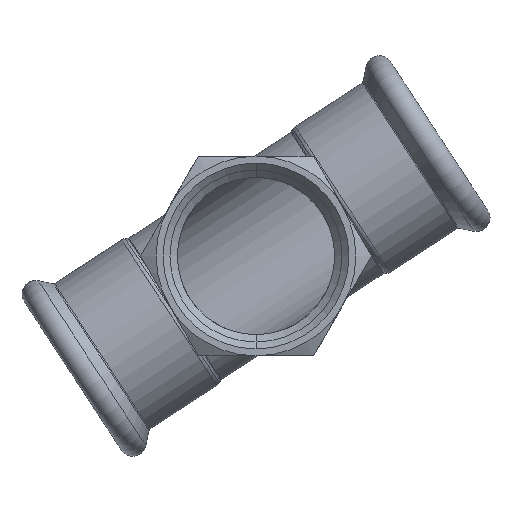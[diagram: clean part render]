
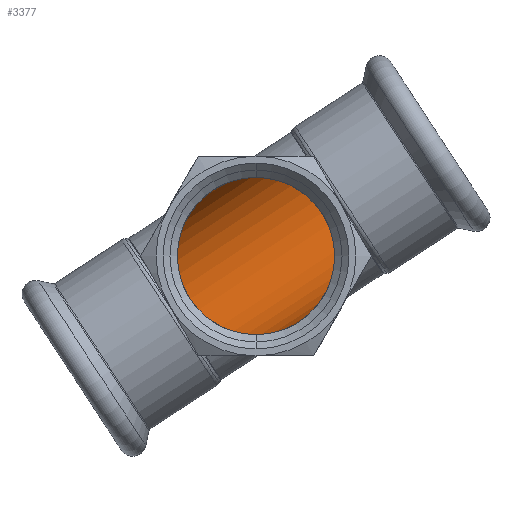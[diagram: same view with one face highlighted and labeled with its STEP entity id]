
A CAD part, front view. The second image highlights one B-rep face of the part: STEP entity #3377.
In plain terms, the highlighted cylindrical face has radius 20.5 mm (diameter 41 mm), a partial arc.
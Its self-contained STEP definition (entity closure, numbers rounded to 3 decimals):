
#170 = CARTESIAN_POINT ( 'NONE',  ( -25.154, 0., 20.5 ) ) ;
#344 = ORIENTED_EDGE ( 'NONE', *, *, #1322, .F. ) ;
#368 = ORIENTED_EDGE ( 'NONE', *, *, #807, .T. ) ;
#374 = EDGE_CURVE ( 'NONE', #3007, #3116, #1953, .T. ) ;
#608 = CARTESIAN_POINT ( 'NONE',  ( 27.146, 0., 20.5 ) ) ;
#643 = CARTESIAN_POINT ( 'NONE',  ( -25.154, 0., 0. ) ) ;
#653 = AXIS2_PLACEMENT_3D ( 'NONE', #643, #1210, #3063 ) ;
#730 = AXIS2_PLACEMENT_3D ( 'NONE', #3321, #3298, #2013 ) ;
#735 = LINE ( 'NONE', #2338, #779 ) ;
#779 = VECTOR ( 'NONE', #3138, 1000. ) ;
#807 = EDGE_CURVE ( 'NONE', #3116, #1616, #735, .T. ) ;
#838 = EDGE_CURVE ( 'NONE', #3001, #2444, #3466, .T. ) ;
#1149 = FACE_OUTER_BOUND ( 'NONE', #1391, .T. ) ;
#1177 = EDGE_CURVE ( 'NONE', #1543, #3001, #3420, .T. ) ;
#1210 = DIRECTION ( 'NONE',  ( -1., 0., 0. ) ) ;
#1322 = EDGE_CURVE ( 'NONE', #3007, #1543, #2911, .T. ) ;
#1391 = EDGE_LOOP ( 'NONE', ( #344, #1773, #368, #3253, #3259, #3446 ) ) ;
#1542 = CARTESIAN_POINT ( 'NONE',  ( 25.154, 0., 20.5 ) ) ;
#1543 = VERTEX_POINT ( 'NONE', #1542 ) ;
#1616 = VERTEX_POINT ( 'NONE', #2879 ) ;
#1685 = CIRCLE ( 'NONE', #653, 20.5 ) ;
#1773 = ORIENTED_EDGE ( 'NONE', *, *, #374, .T. ) ;
#1790 = VECTOR ( 'NONE', #2726, 1000. ) ;
#1904 = CARTESIAN_POINT ( 'NONE',  ( 25.154, 0., -20.5 ) ) ;
#1953 = LINE ( 'NONE', #2952, #1790 ) ;
#1991 = DIRECTION ( 'NONE',  ( 0., 0., 1. ) ) ;
#2013 = DIRECTION ( 'NONE',  ( 0., 0., 1. ) ) ;
#2047 = CARTESIAN_POINT ( 'NONE',  ( 27.146, 0., 20.5 ) ) ;
#2123 = VECTOR ( 'NONE', #2991, 1000. ) ;
#2292 = CARTESIAN_POINT ( 'NONE',  ( 0., 0., -20.5 ) ) ;
#2338 = CARTESIAN_POINT ( 'NONE',  ( 27.146, 0., -20.5 ) ) ;
#2444 = VERTEX_POINT ( 'NONE', #170 ) ;
#2673 = VECTOR ( 'NONE', #3383, 1000. ) ;
#2726 = DIRECTION ( 'NONE',  ( -1., 0., 0. ) ) ;
#2775 = CARTESIAN_POINT ( 'NONE',  ( 27.146, 0., 0. ) ) ;
#2879 = CARTESIAN_POINT ( 'NONE',  ( -25.154, 0., -20.5 ) ) ;
#2911 = CIRCLE ( 'NONE', #730, 20.5 ) ;
#2952 = CARTESIAN_POINT ( 'NONE',  ( 27.146, 0., -20.5 ) ) ;
#2991 = DIRECTION ( 'NONE',  ( -1., 0., 0. ) ) ;
#3001 = VERTEX_POINT ( 'NONE', #3286 ) ;
#3002 = AXIS2_PLACEMENT_3D ( 'NONE', #2775, #3313, #1991 ) ;
#3007 = VERTEX_POINT ( 'NONE', #1904 ) ;
#3063 = DIRECTION ( 'NONE',  ( 0., 0., 1. ) ) ;
#3116 = VERTEX_POINT ( 'NONE', #2292 ) ;
#3138 = DIRECTION ( 'NONE',  ( -1., 0., 0. ) ) ;
#3235 = CYLINDRICAL_SURFACE ( 'NONE', #3002, 20.5 ) ;
#3253 = ORIENTED_EDGE ( 'NONE', *, *, #3416, .T. ) ;
#3259 = ORIENTED_EDGE ( 'NONE', *, *, #838, .F. ) ;
#3286 = CARTESIAN_POINT ( 'NONE',  ( 0., 0., 20.5 ) ) ;
#3298 = DIRECTION ( 'NONE',  ( -1., 0., 0. ) ) ;
#3313 = DIRECTION ( 'NONE',  ( -1., 0., 0. ) ) ;
#3321 = CARTESIAN_POINT ( 'NONE',  ( 25.154, 0., 0. ) ) ;
#3377 = ADVANCED_FACE ( 'NONE', ( #1149 ), #3235, .F. ) ;
#3383 = DIRECTION ( 'NONE',  ( -1., 0., 0. ) ) ;
#3416 = EDGE_CURVE ( 'NONE', #1616, #2444, #1685, .T. ) ;
#3420 = LINE ( 'NONE', #608, #2123 ) ;
#3446 = ORIENTED_EDGE ( 'NONE', *, *, #1177, .F. ) ;
#3466 = LINE ( 'NONE', #2047, #2673 ) ;
